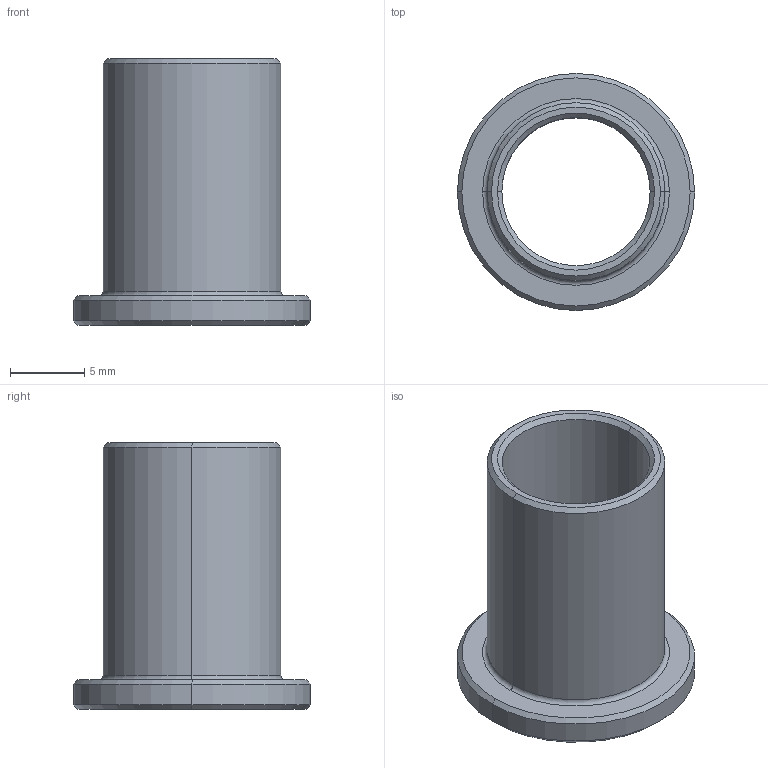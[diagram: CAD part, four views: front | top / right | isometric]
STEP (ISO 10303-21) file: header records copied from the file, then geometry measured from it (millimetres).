
FILE_DESCRIPTION (( 'STEP AP214' ), '1' );
FILE_NAME ('SBNA-12M10.STEP', '2019-11-11T06:47:47', ( '微软用户' ), ( '微软中国' ), 'SwSTEP 2.0', 'SolidWorks 2016', '' );
FILE_SCHEMA (( 'AUTOMOTIVE_DESIGN' ));
Length unit declared in the file: millimetre
Products named in the file (1): SBNA-12M10
Bounding box: 16 x 16 x 18 mm (x, y, z)
Volume: 789.7 mm3; surface area: 1474 mm2
Topology: 1 solids, 1 shells, 21 faces, 42 edges, 24 vertices
Faces by surface type: cone 10, cylinder 6, plane 3, torus 2
Entity records: 584 total; most frequent: DIRECTION 112, CARTESIAN_POINT 88, ORIENTED_EDGE 84, AXIS2_PLACEMENT_3D 48, EDGE_CURVE 42, CIRCLE 26, VERTEX_POINT 24, EDGE_LOOP 24
